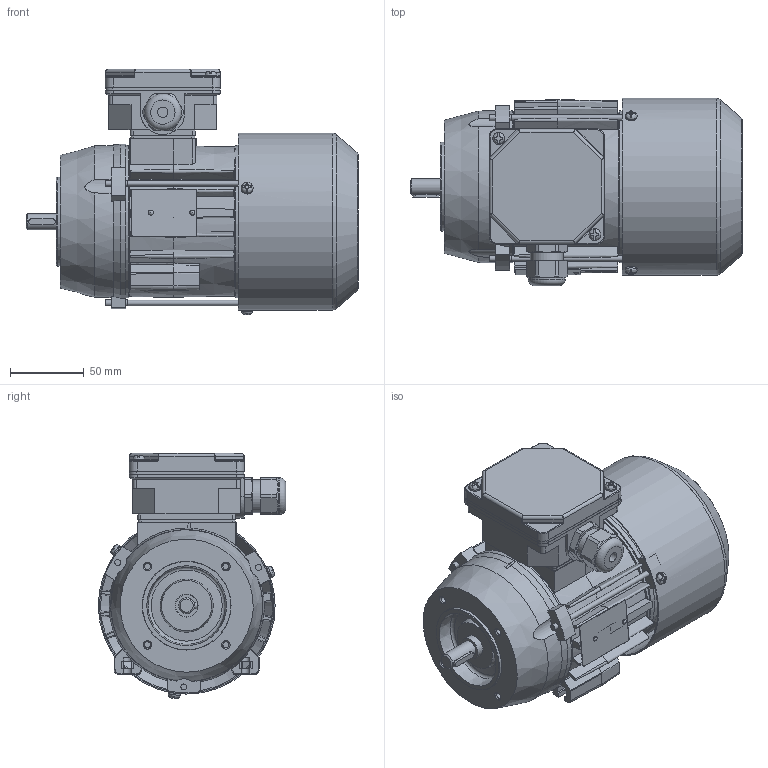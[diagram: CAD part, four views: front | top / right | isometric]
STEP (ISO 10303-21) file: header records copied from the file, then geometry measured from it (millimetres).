
FILE_DESCRIPTION( ( 'Unknown' ), '1' );
FILE_NAME( 'G:/Poczta Tk-1/STP/w.m.63/Sh63/SKh63-C2.stp', 'Unknown', ( 'K. Szlosek' ), ( 'BESEL S.A.' ), 'PSStep 17.0.49', 'Unknown', ' ' );
FILE_SCHEMA( ( 'AUTOMOTIVE_DESIGN { 1 0 10303 214 1 1 1 1 }' ) );
Length unit declared in the file: millimetre
Products named in the file (29): Assem1; K3-9973 Kadłub ze stojanem wykończonym Sh63-C; K3-5320 Tarcza łożyskowa P Sg63; K4-2320 Uszczelka nr 1 Sh71,80; Wpust A4x4x18; K3-5321 osłona przewietrznika Sg63; K4-2820 Uszczelka nr 2 Sh71,80; K2-0860 Pokrywka skrzynki zaciskowej; Wkręt samogwintujący M4x16; K2-1769 Przewietrznik Sg63; Wkręt samogwintujący M4x8; Nitokołek A 2x6; K3-9974 wał Sh63-C standard; K2-0859 Podstawa skrzynki 6-cio zaciskowej; Łożysko 6202; Dławnica M20x1,5; Śruba ściągająca E_M4x100; Tabliczka znamionowa 32x44; K1-1112 Tarcza kołnierzowa B14_2 SKg63-..2
Assembly tree (45 placements, depth 2):
  Assem1
    K3-9973 Kadłub ze stojanem wykończonym Sh63-C
    K3-5320 Tarcza łożyskowa P Sg63
    K4-2320 Uszczelka nr 1 Sh71,80
    Wpust A4x4x18
    K3-5321 osłona przewietrznika Sg63
    K4-2820 Uszczelka nr 2 Sh71,80
    K2-0860 Pokrywka skrzynki zaciskowej
    Wkręt samogwintujący M4x16  x2
    K2-1769 Przewietrznik Sg63
    Wkręt samogwintujący M4x8  x3
    Nitokołek A 2x6  x2
    K3-9974 wał Sh63-C standard
    K2-0859 Podstawa skrzynki 6-cio zaciskowej
    Łożysko 6202  x2
    Łożysko 6202  x2
    Łożysko 6202  x2
    Łożysko 6202  x2
    Łożysko 6202  x2
    Łożysko 6202  x2
    Łożysko 6202  x2
    Łożysko 6202  x2
    Łożysko 6202  x2
    Łożysko 6202  x2
    Łożysko 6202  x2
    Dławnica M20x1,5
    Śruba ściągająca E_M4x100  x3
    Tabliczka znamionowa 32x44
    K1-1112 Tarcza kołnierzowa B14_2 SKg63-..2
Bounding box: 224.5 x 126.8 x 165.9 mm (x, y, z)
Volume: 505148.3 mm3; surface area: 349788.5 mm2
Topology: 45 solids, 63 shells, 1851 faces, 5077 edges, 3293 vertices
Faces by surface type: plane 917, cylinder 541, cone 142, torus 116, bspline 96, sphere 39
Full cylindrical faces by diameter (mm): 2 x2, 2.4 x2, 3.242 x3, 3.7 x10, 4 x8, 4.134 x4, 4.5 x4, 4.8 x4, 5 x4, 7 x4, 8 x6, 11 x1, 12.9 x1, 13.1 x1, 13.5 x1, 15 x4, 15.4 x2, 18.376 x1, 18.38 x1, 19 x2, 19.5 x1, 20 x2, 20.1 x1, 21.52 x4, 22.3 x1, 25 x1, 28 x2, 28.48 x4, 31 x2, 35 x4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
Entity records: 80850 total; most frequent: CARTESIAN_POINT 25551, ORIENTED_EDGE 8734, DIRECTION 8350, EDGE_CURVE 4367, AXIS2_PLACEMENT_3D 3121, VERTEX_POINT 2977, LINE 2108, VECTOR 2108
